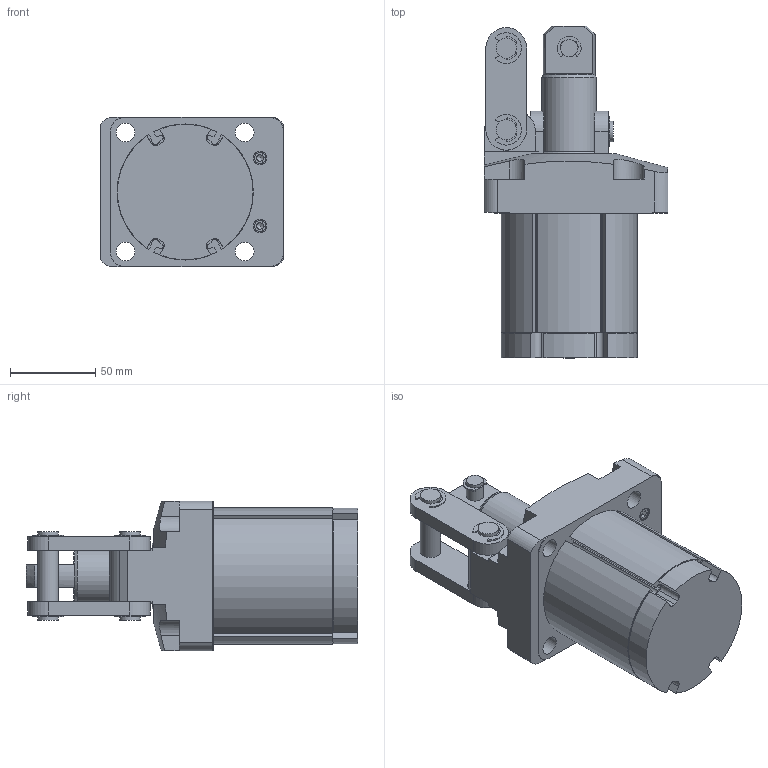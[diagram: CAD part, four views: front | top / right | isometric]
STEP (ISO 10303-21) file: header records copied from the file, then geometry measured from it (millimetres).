
FILE_DESCRIPTION( ( '' ), '1' );
FILE_NAME( 'W:/Catalogue/JSS/jss50-41/jss50-41.stp', '2008-05-26T04:21:43', ( '機械事業部産業機器グループ' ), ( '豊和工業株式会社' ), 'XStep 1.0', ' ', ' ' );
FILE_SCHEMA( ( 'CONFIG_CONTROL_DESIGN' ) );
Length unit declared in the file: millimetre
Products named in the file (7): Assem1; 1; 2; 3; 4; 5; 6
Bounding box: 108 x 195 x 88 mm (x, y, z)
Volume: 1416240 mm3; surface area: 237190.3 mm2
Topology: 14 solids, 16 shells, 770 faces, 2074 edges, 1362 vertices
Faces by surface type: plane 446, cylinder 272, cone 46, torus 6
Full cylindrical faces by diameter (mm): 6.3 x4, 7 x4, 8 x4, 9 x8, 10 x8, 11 x12, 12 x14, 30.5 x2, 32 x4, 34 x2, 39 x2, 44 x4, 50 x4
Entity records: 11977 total; most frequent: CARTESIAN_POINT 2453, DIRECTION 1983, ORIENTED_EDGE 1828, EDGE_CURVE 914, AXIS2_PLACEMENT_3D 730, VERTEX_POINT 630, LINE 523, VECTOR 523
